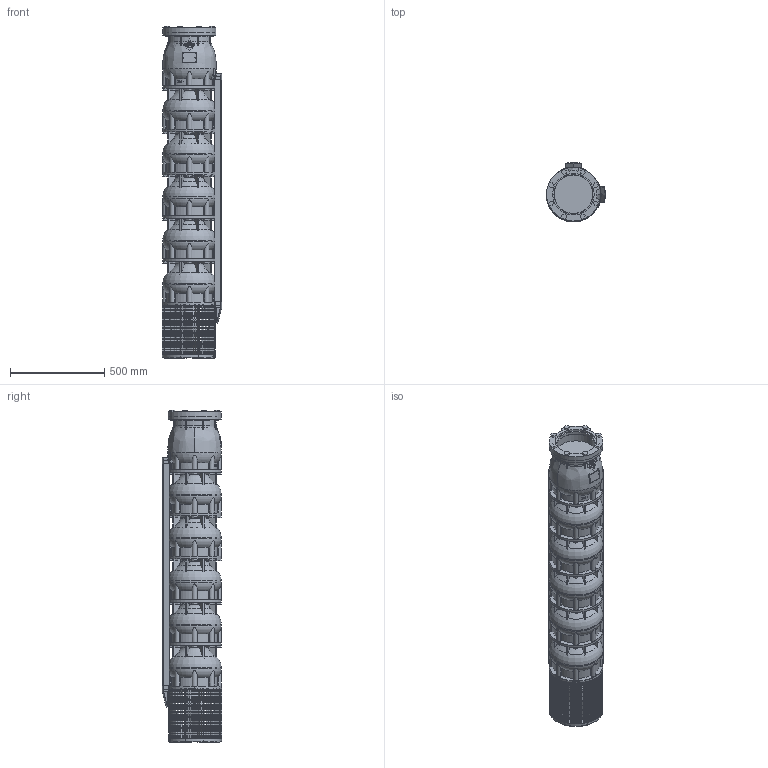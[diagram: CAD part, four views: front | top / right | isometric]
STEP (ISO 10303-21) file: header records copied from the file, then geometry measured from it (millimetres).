
FILE_DESCRIPTION(/* description */ ('-'),/* implementation_level */ '2;1');
FILE_NAME(/* name */ 'VSI454-5-1E1F_WF_M12-50_SME',/* time_stamp */ '2026-01-21T15:13:23+01:00',/* author */ ('Simonelli M.'),/* organization */ ('Franklin Electric Srl'),/* preprocessor_version */ 'ST-DEVELOPER v18.102',/* originating_system */ 'Solid Edge',/* authorisation */ 'Unknown');
FILE_SCHEMA (('AUTOMOTIVE_DESIGN {1 0 10303 214 3 1 1}'));
Products named in the file (12): VSI454-5-1E1F_WF_M12-50_SME; VSI344-454_testata; VSI344-454_supporto; VSI344-454_filtro_A; VSI344-454_filtro_B; VSI344-454_terminale_top_copricavo_medio; VSI344-454_terminale_bottom_copricavo_medio; MID 454-5; VSI454_diffusore; M5X8_UNI7687; VSI184-254_giunto_10×12; VSI344-454_flangia_testata
Assembly tree (29 placements, depth 2):
  VSI454-5-1E1F_WF_M12-50_SME
    VSI344-454_testata
    VSI344-454_supporto
    VSI344-454_filtro_A
    VSI344-454_filtro_B
    VSI344-454_terminale_top_copricavo_medio  x2
    VSI344-454_terminale_bottom_copricavo_medio  x2
    MID 454-5  x2
    VSI454_diffusore  x5
    M5X8_UNI7687  x12
    VSI184-254_giunto_10×12
    VSI344-454_flangia_testata
Bounding box: 314.3 x 314.3 x 1765 mm (x, y, z)
Volume: 75311956.5 mm3; surface area: 4212219 mm2
Topology: 94 solids, 94 shells, 4654 faces, 13071 edges, 8681 vertices
Faces by surface type: plane 3681, cylinder 540, torus 301, cone 105, bspline 15, sphere 12
Full cylindrical faces by diameter (mm): 5 x12, 16 x8, 35 x1, 65 x1, 79 x1, 150 x1, 207 x1, 220.5 x1, 284.507 x5, 285 x5
Entity records: 124623 total; most frequent: CARTESIAN_POINT 28078, ORIENTED_EDGE 20264, DIRECTION 19376, EDGE_CURVE 10132, VERTEX_POINT 6757, AXIS2_PLACEMENT_3D 6546, LINE 6284, VECTOR 6284
